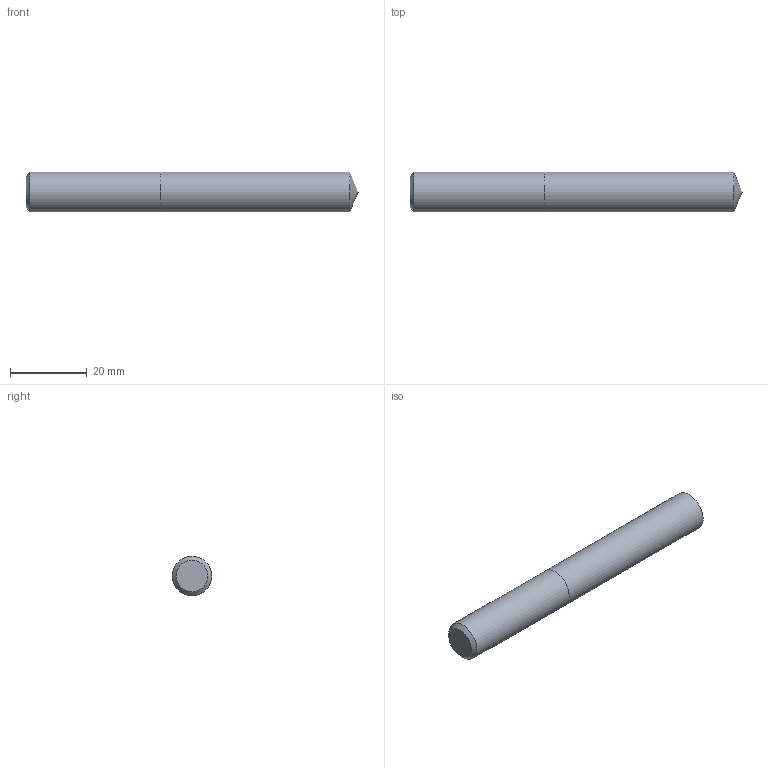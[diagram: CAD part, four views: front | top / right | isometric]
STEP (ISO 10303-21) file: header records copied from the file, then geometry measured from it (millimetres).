
FILE_DESCRIPTION (( 'STEP AP214' ), '1' );
FILE_NAME ('03-2425.STEP', '2022-06-03T07:36:21', ( 'USER' ), ( '' ), 'SwSTEP 2.0', 'SolidWorks 2018', '' );
FILE_SCHEMA (( 'AUTOMOTIVE_DESIGN' ));
Length unit declared in the file: inch
Products named in the file (1): 03-2425
Bounding box: 86.27 x 10.32 x 10.32 mm (x, y, z)
Volume: 7079.6 mm3; surface area: 3047.9 mm2
Topology: 2 solids, 2 shells, 7 faces, 11 edges, 7 vertices
Faces by surface type: plane 3, cylinder 2, cone 2
Full cylindrical faces by diameter (mm): 10.319 x2
Entity records: 214 total; most frequent: DIRECTION 26, CARTESIAN_POINT 18, AXIS2_PLACEMENT_3D 13, EDGE_LOOP 10, ORIENTED_EDGE 10, FACE_OUTER_BOUND 9, UNCERTAINTY_MEASURE_WITH_UNIT 7, LENGTH_MEASURE_WITH_UNIT 7
